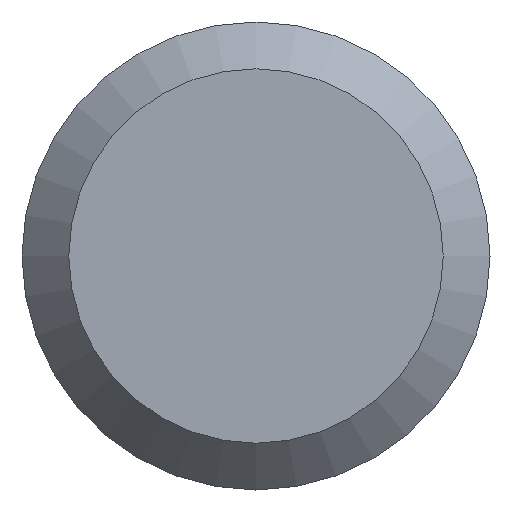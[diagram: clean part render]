
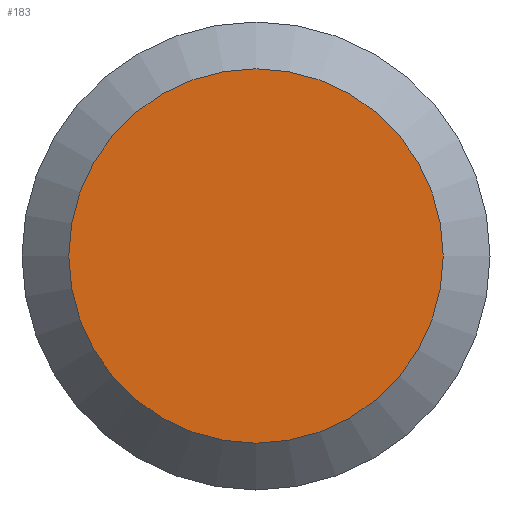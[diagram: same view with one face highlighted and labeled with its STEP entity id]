
A CAD part, left-side view. The second image highlights one B-rep face of the part: STEP entity #183.
In plain terms, the highlighted planar face has unit normal (-1, 0, 0).
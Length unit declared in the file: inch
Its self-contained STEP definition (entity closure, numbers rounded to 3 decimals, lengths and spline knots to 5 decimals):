
#2 = EDGE_CURVE ( 'NONE', #205, #205, #110, .T. ) ;
#9 = PLANE ( 'NONE',  #177 ) ;
#90 = FACE_OUTER_BOUND ( 'NONE', #150, .T. ) ;
#92 = DIRECTION ( 'NONE',  ( 1., 0., 0. ) ) ;
#102 = CARTESIAN_POINT ( 'NONE',  ( 0., 0., -0.0616 ) ) ;
#110 = CIRCLE ( 'NONE', #111, 0.0616 ) ;
#111 = AXIS2_PLACEMENT_3D ( 'NONE', #136, #115, #198 ) ;
#115 = DIRECTION ( 'NONE',  ( -1., 0., 0. ) ) ;
#136 = CARTESIAN_POINT ( 'NONE',  ( 0., 0., 0. ) ) ;
#150 = EDGE_LOOP ( 'NONE', ( #179 ) ) ;
#167 = DIRECTION ( 'NONE',  ( 0., 0., -1. ) ) ;
#169 = CARTESIAN_POINT ( 'NONE',  ( 0., 0.077, 0. ) ) ;
#177 = AXIS2_PLACEMENT_3D ( 'NONE', #169, #92, #167 ) ;
#179 = ORIENTED_EDGE ( 'NONE', *, *, #2, .T. ) ;
#183 = ADVANCED_FACE ( 'NONE', ( #90 ), #9, .F. ) ;
#198 = DIRECTION ( 'NONE',  ( 0., 0., -1. ) ) ;
#205 = VERTEX_POINT ( 'NONE', #102 ) ;
